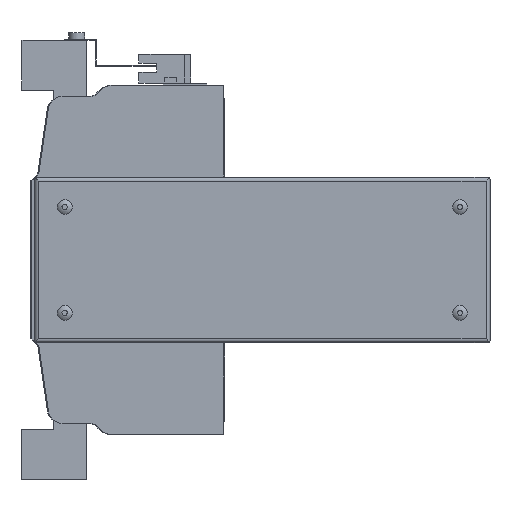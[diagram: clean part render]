
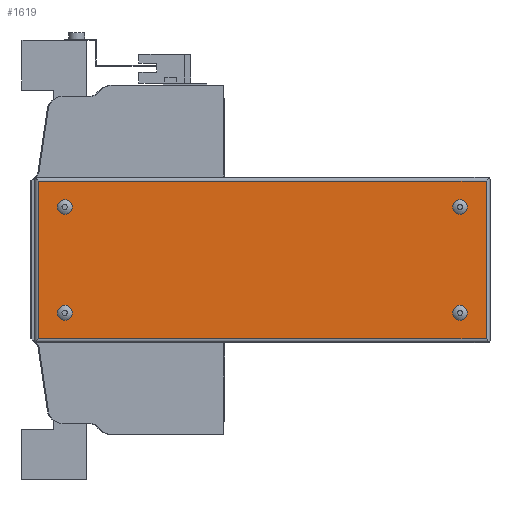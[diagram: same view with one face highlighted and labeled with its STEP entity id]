
A CAD part, left-side view. The second image highlights one B-rep face of the part: STEP entity #1619.
In plain terms, the highlighted planar face has unit normal (-1, 0, 0).
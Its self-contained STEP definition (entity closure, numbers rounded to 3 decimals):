
#1619 = ADVANCED_FACE( '', ( #3349, #3350, #3351, #3352, #3353 ), #3354, .F. );
#3349 = FACE_BOUND( '', #5156, .T. );
#3350 = FACE_BOUND( '', #5157, .T. );
#3351 = FACE_BOUND( '', #5158, .T. );
#3352 = FACE_BOUND( '', #5159, .T. );
#3353 = FACE_OUTER_BOUND( '', #5160, .T. );
#3354 = PLANE( '', #5161 );
#5156 = EDGE_LOOP( '', ( #9523 ) );
#5157 = EDGE_LOOP( '', ( #9524 ) );
#5158 = EDGE_LOOP( '', ( #9525 ) );
#5159 = EDGE_LOOP( '', ( #9526 ) );
#5160 = EDGE_LOOP( '', ( #9527, #9528, #9529, #9530 ) );
#5161 = AXIS2_PLACEMENT_3D( '', #9531, #9532, #9533 );
#9523 = ORIENTED_EDGE( '', *, *, #11666, .F. );
#9524 = ORIENTED_EDGE( '', *, *, #12167, .F. );
#9525 = ORIENTED_EDGE( '', *, *, #11840, .F. );
#9526 = ORIENTED_EDGE( '', *, *, #12085, .F. );
#9527 = ORIENTED_EDGE( '', *, *, #12168, .F. );
#9528 = ORIENTED_EDGE( '', *, *, #11050, .F. );
#9529 = ORIENTED_EDGE( '', *, *, #10692, .T. );
#9530 = ORIENTED_EDGE( '', *, *, #11100, .T. );
#9531 = CARTESIAN_POINT( '', ( -66., -131.95, 40.5 ) );
#9532 = DIRECTION( '', ( 1., 0., 0. ) );
#9533 = DIRECTION( '', ( 0., 0., -1. ) );
#10692 = EDGE_CURVE( '', #12829, #12830, #12831, .T. );
#11050 = EDGE_CURVE( '', #12829, #13433, #13434, .T. );
#11100 = EDGE_CURVE( '', #12830, #13512, #13515, .T. );
#11666 = EDGE_CURVE( '', #14368, #14368, #14369, .F. );
#11840 = EDGE_CURVE( '', #14619, #14619, #14620, .F. );
#12085 = EDGE_CURVE( '', #14917, #14917, #14918, .F. );
#12167 = EDGE_CURVE( '', #15011, #15011, #15012, .F. );
#12168 = EDGE_CURVE( '', #13433, #13512, #15013, .T. );
#12829 = VERTEX_POINT( '', #15884 );
#12830 = VERTEX_POINT( '', #15885 );
#12831 = LINE( '', #15886, #15887 );
#13433 = VERTEX_POINT( '', #16740 );
#13434 = LINE( '', #16741, #16742 );
#13512 = VERTEX_POINT( '', #16854 );
#13515 = LINE( '', #16857, #16858 );
#14368 = VERTEX_POINT( '', #18040 );
#14369 = CIRCLE( '', #18041, 3.7 );
#14619 = VERTEX_POINT( '', #18385 );
#14620 = CIRCLE( '', #18386, 3.7 );
#14917 = VERTEX_POINT( '', #18809 );
#14918 = CIRCLE( '', #18810, 3.7 );
#15011 = VERTEX_POINT( '', #18951 );
#15012 = CIRCLE( '', #18952, 3.7 );
#15013 = LINE( '', #18953, #18954 );
#15884 = CARTESIAN_POINT( '', ( -66., 93.05, -39.5 ) );
#15885 = CARTESIAN_POINT( '', ( -66., -130.95, -39.5 ) );
#15886 = CARTESIAN_POINT( '', ( -66., 228., -39.5 ) );
#15887 = VECTOR( '', #19445, 1000. );
#16740 = CARTESIAN_POINT( '', ( -66., 93.05, 39.5 ) );
#16741 = CARTESIAN_POINT( '', ( -66., 93.05, -83. ) );
#16742 = VECTOR( '', #19805, 1000. );
#16854 = CARTESIAN_POINT( '', ( -66., -130.95, 39.5 ) );
#16857 = CARTESIAN_POINT( '', ( -66., -130.95, -83. ) );
#16858 = VECTOR( '', #19859, 1000. );
#18040 = CARTESIAN_POINT( '', ( -66., -117.95, 22.8 ) );
#18041 = AXIS2_PLACEMENT_3D( '', #20495, #20496, #20497 );
#18385 = CARTESIAN_POINT( '', ( -66., 80.05, 22.8 ) );
#18386 = AXIS2_PLACEMENT_3D( '', #20673, #20674, #20675 );
#18809 = CARTESIAN_POINT( '', ( -66., 80.05, -30.2 ) );
#18810 = AXIS2_PLACEMENT_3D( '', #20898, #20899, #20900 );
#18951 = CARTESIAN_POINT( '', ( -66., -117.95, -30.2 ) );
#18952 = AXIS2_PLACEMENT_3D( '', #20971, #20972, #20973 );
#18953 = CARTESIAN_POINT( '', ( -66., 228., 39.5 ) );
#18954 = VECTOR( '', #20974, 1000. );
#19445 = DIRECTION( '', ( 0., -1., 0. ) );
#19805 = DIRECTION( '', ( 0., 0., 1. ) );
#19859 = DIRECTION( '', ( 0., 0., 1. ) );
#20495 = CARTESIAN_POINT( '', ( -66., -117.95, 26.5 ) );
#20496 = DIRECTION( '', ( 1., 0., 0. ) );
#20497 = DIRECTION( '', ( 0., 0., -1. ) );
#20673 = CARTESIAN_POINT( '', ( -66., 80.05, 26.5 ) );
#20674 = DIRECTION( '', ( 1., 0., 0. ) );
#20675 = DIRECTION( '', ( 0., 0., -1. ) );
#20898 = CARTESIAN_POINT( '', ( -66., 80.05, -26.5 ) );
#20899 = DIRECTION( '', ( 1., 0., 0. ) );
#20900 = DIRECTION( '', ( 0., 0., -1. ) );
#20971 = CARTESIAN_POINT( '', ( -66., -117.95, -26.5 ) );
#20972 = DIRECTION( '', ( 1., 0., 0. ) );
#20973 = DIRECTION( '', ( 0., 0., -1. ) );
#20974 = DIRECTION( '', ( 0., -1., 0. ) );
